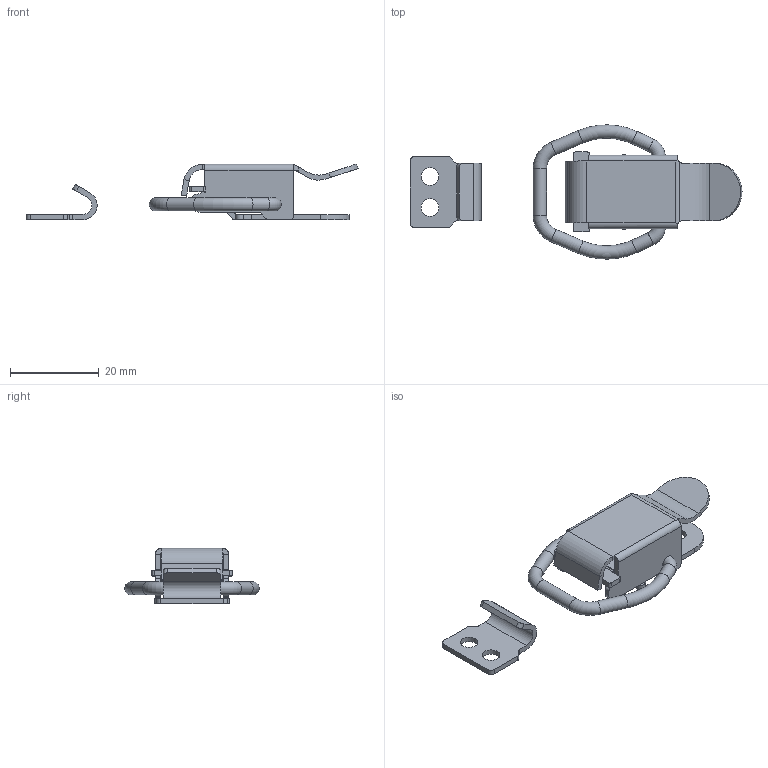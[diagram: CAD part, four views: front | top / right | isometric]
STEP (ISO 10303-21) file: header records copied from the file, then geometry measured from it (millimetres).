
FILE_DESCRIPTION(/* description */ (''),/* implementation_level */ '2;1');
FILE_NAME(/* name */ '\\NAS\db20\C-M3-1\DR_C-M3-1.stp',/* time_stamp */ '2017-09-06T13:12:09+09:00',/* author */ ('user'),/* organization */ (''),/* preprocessor_version */ 'ST-DEVELOPER v15.6',/* originating_system */ 'Autodesk Inventor 2015',/* authorisation */ '');
FILE_SCHEMA (('AUTOMOTIVE_DESIGN { 1 0 10303 214 3 1 1 }'));
Length unit declared in the file: millimetre
Products named in the file (5): DR_C-M3-1; DR_C-M3-1-BR; DR_C-M3-1-C; DR_C-M3-1-P
Bounding box: 74.66 x 30.2 x 12.53 mm (x, y, z)
Volume: 2818.4 mm3; surface area: 5020.3 mm2
Topology: 4 solids, 4 shells, 134 faces, 354 edges, 226 vertices
Faces by surface type: plane 68, cylinder 60, torus 6
Full cylindrical faces by diameter (mm): 3 x8, 4 x4
Entity records: 4271 total; most frequent: CARTESIAN_POINT 807, DIRECTION 718, ORIENTED_EDGE 672, EDGE_CURVE 336, AXIS2_PLACEMENT_3D 257, VERTEX_POINT 226, LINE 204, VECTOR 204
